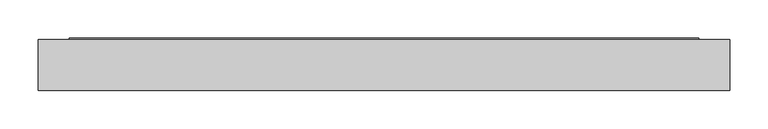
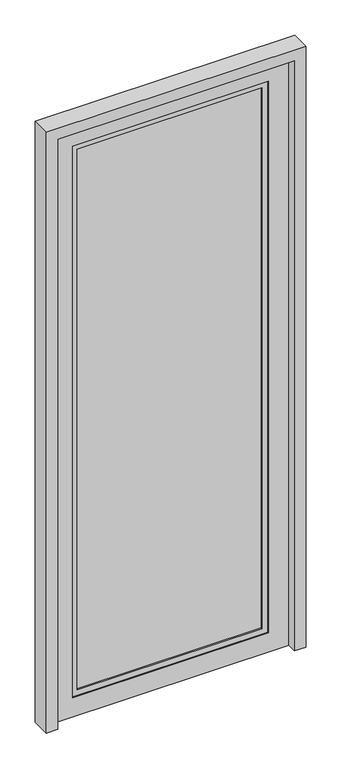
"""IFC4 building model written with IfcOpenShell, lengths in millimetres: plate geometry, ARQ-PA-IN-AluVid-Puerta : ARQ-PA-IN-AluVid-Puerta."""

from ifc_helpers import new_model, si_unit, frame, origin, place, context, project, spatial, polyline, outline, extrude, source, transform, mapped, element, save


def plate_084df372(model_context):
    return source(origin(), model_context, "Body", "SweptSolid", [
        extrude(outline(polyline([(2200.0, -450.0), (0.0, -450.0), (0.0, -410.0), (2160.0, -410.0), (2160.0, 410.0), (0.0, 410.0), (0.0, 450.0), (2200.0, 450.0), (2200.0, -450.0)])), frame((0.0, -33.0, 0.0), z_axis=(0.0, 1.0, 0.0), x_axis=(0.0, 0.0, 1.0)), (0.0, 0.0, 1.0), 66.0),
        extrude(outline(polyline([(320.0, 10.0), (-320.0, 10.0), (-320.0, 25.0), (320.0, 25.0), (320.0, 10.0)])), frame((0.0, 0.0, 90.0), z_axis=(0.0, 0.0, 1.0), x_axis=(1.0, 0.0, 0.0)), (0.0, 0.0, 1.0), 1980.0),
        extrude(outline(polyline([(2090.0, -340.0), (70.0, -340.0), (70.0, 340.0), (2090.0, 340.0), (2090.0, -340.0)]), holes=[polyline([(2070.0, -320.0), (2070.0, 320.0), (90.0, 320.0), (90.0, -320.0), (2070.0, -320.0)])]), frame((0.0, 5.0, 0.0), z_axis=(0.0, 1.0, 0.0), x_axis=(0.0, 0.0, 1.0)), (0.0, 0.0, 1.0), 25.0),
        extrude(outline(polyline([(2160.0, -410.0), (0.0, -410.0), (0.0, 410.0), (2160.0, 410.0), (2160.0, -410.0)]), holes=[polyline([(2090.0, -340.0), (2090.0, 340.0), (70.0, 340.0), (70.0, -340.0), (2090.0, -340.0)])]), frame((0.0, 0.0, 0.0), z_axis=(0.0, 1.0, 0.0), x_axis=(0.0, 0.0, 1.0)), (0.0, 0.0, 1.0), 35.0),
    ])


if __name__ == "__main__":
    model = new_model("IFC4")
    model_context = context("Model", 3, world=origin())
    ifc_project = project(units=[si_unit("LENGTHUNIT", "METRE", prefix="MILLI")], contexts=[model_context])
    site = spatial("IfcSite", under=ifc_project)
    building = spatial("IfcBuilding", under=site)
    placement = place(None, origin())
    plate_shape = plate_084df372(model_context)
    element("IfcPlate", 1, ObjectType="ARQ-PA-IN-AluVid-Puerta : ARQ-PA-IN-AluVid-Puerta", at=placement, inside=building, context=model_context, shape_type="MappedRepresentation", body=[
        mapped(plate_shape, transform((0.0, 0.0, 0.0), x_axis=(1.0, 0.0, 0.0), y_axis=(0.0, 1.0, 0.0), z_axis=(0.0, 0.0, 1.0))),
    ])
    save(model, "model.ifc")
